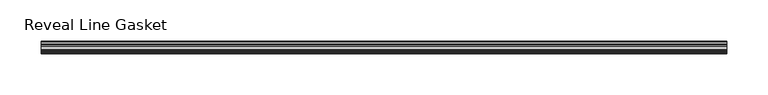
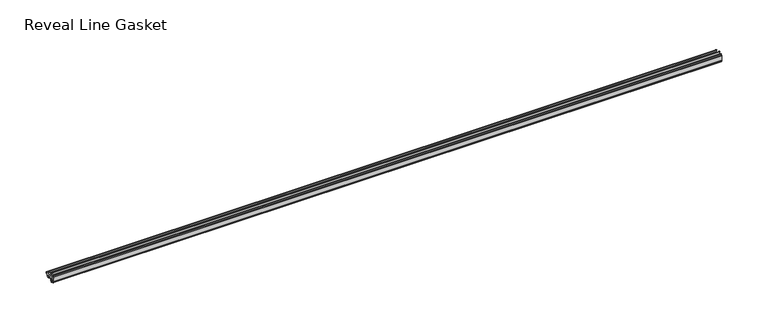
"""IFC4 building model written with IfcOpenShell, lengths in millimetres: proxy geometry, Accessories-Teknion-FHGR-AI_Healthcare-Reveal_Line_Gasket(Horizontal)-R2022 : Reveal Line Gasket."""

from ifc_helpers import new_model, si_unit, point, frame, frame_2d, origin, place, context, project, spatial, polyline, circle_curve, trimmed, segment, composite_curve, outline, extrude, source, transform, mapped, element, save


def reveal_line_gasket_19e44f22(model_context):
    return source(origin(), model_context, "Body", "SweptSolid", [
        extrude(outline(composite_curve([segment(polyline([(-7.6326998, 1603.2), (-7.4091917, 1604.1554927), (-6.8813059, 1605.0884684)]), True, "CONTINUOUS"), segment(trimmed(circle_curve(frame_2d((-6.5243141, 1604.8864793)), 0.4101739), [point((-6.8813059, 1605.0884684))], [point((-6.1246704, 1604.7941347))], False, "CARTESIAN"), True, "CONTINUOUS"), segment(polyline([(-6.1246704, 1604.7941347), (-6.3626997, 1603.0979086), (-6.3626997, 1601.0654527)]), True, "CONTINUOUS"), segment(trimmed(circle_curve(frame_2d((-5.6959605, 1601.4819258)), 0.786124), [point((-6.3626997, 1601.0654527))], [point((-5.0926996, 1600.977875))], True, "CARTESIAN"), True, "CONTINUOUS"), segment(polyline([(-5.0926996, 1600.977875), (-0.7492996, 1600.977875), (-3.7293824, 1606.1395295)]), True, "CONTINUOUS"), segment(trimmed(circle_curve(frame_2d((-3.3132479, 1606.2049761)), 0.4212495), [point((-3.7293824, 1606.1395295))], [point((-3.0485022, 1606.5326358))], False, "CARTESIAN"), True, "CONTINUOUS"), segment(polyline([(-3.0485022, 1606.5326358), (0.5742594, 1600.977875), (4.8262978, 1600.977875), (3.1660374, 1603.8535297)]), True, "CONTINUOUS"), segment(trimmed(circle_curve(frame_2d((3.5978728, 1603.9118855)), 0.4357605), [point((3.1660374, 1603.8535297))], [point((3.864328, 1604.2566881))], False, "CARTESIAN"), True, "CONTINUOUS"), segment(polyline([(3.864328, 1604.2566881), (6.1944059, 1600.977875), (7.6326998, 1600.977875), (7.6326998, 1599.422125), (6.1944059, 1599.422125), (3.864328, 1596.1433119)]), True, "CONTINUOUS"), segment(trimmed(circle_curve(frame_2d((3.5978728, 1596.4881145)), 0.4357605), [point((3.864328, 1596.1433119))], [point((3.1660374, 1596.5464703))], False, "CARTESIAN"), True, "CONTINUOUS"), segment(polyline([(3.1660374, 1596.5464703), (4.8262978, 1599.422125), (0.5742594, 1599.422125), (-3.0485022, 1593.8673642)]), True, "CONTINUOUS"), segment(trimmed(circle_curve(frame_2d((-3.3132479, 1594.1950239)), 0.4212495), [point((-3.0485022, 1593.8673642))], [point((-3.7293824, 1594.2604705))], False, "CARTESIAN"), True, "CONTINUOUS"), segment(polyline([(-3.7293824, 1594.2604705), (-0.7492996, 1599.422125), (-5.0926996, 1599.422125)]), True, "CONTINUOUS"), segment(trimmed(circle_curve(frame_2d((-5.6959605, 1598.9180742)), 0.786124), [point((-5.0926996, 1599.422125))], [point((-6.3626997, 1599.3345473))], True, "CARTESIAN"), True, "CONTINUOUS"), segment(polyline([(-6.3626997, 1599.3345473), (-6.3626997, 1597.3020914), (-6.1246704, 1595.6058653)]), True, "CONTINUOUS"), segment(trimmed(circle_curve(frame_2d((-6.5243141, 1595.5135207)), 0.4101739), [point((-6.1246704, 1595.6058653))], [point((-6.8813059, 1595.3115316))], False, "CARTESIAN"), True, "CONTINUOUS"), segment(polyline([(-6.8813059, 1595.3115316), (-7.4091917, 1596.2445073), (-7.6326998, 1597.2), (-7.6326998, 1603.2)]), True, "CONTINUOUS")], self_intersect=False)), frame((-417.2204, 0.0, 0.0), z_axis=(1.0, 0.0, 0.0), x_axis=(0.0, 1.0, 0.0)), (0.0, 0.0, 1.0), 834.4408),
    ])


if __name__ == "__main__":
    model = new_model("IFC4")
    model_context = context("Model", 3, world=origin())
    ifc_project = project(units=[si_unit("LENGTHUNIT", "METRE", prefix="MILLI")], contexts=[model_context])
    site = spatial("IfcSite", under=ifc_project)
    building = spatial("IfcBuilding", under=site)
    placement = place(None, origin())
    reveal_line_gasket_shape = reveal_line_gasket_19e44f22(model_context)
    element("IfcBuildingElementProxy", 1, Name="Accessories-Teknion-FHGR-AI_Healthcare-Reveal_Line_Gasket(Horizontal)-R2022 : Reveal Line Gasket", ObjectType="Accessories-Teknion-FHGR-AI_Healthcare-Reveal_Line_Gasket(Horizontal)-R2022 : Reveal Line Gasket", at=placement, inside=building, context=model_context, shape_type="MappedRepresentation", body=[
        mapped(reveal_line_gasket_shape, transform((0.0, 0.0, 0.0), x_axis=(1.0, 0.0, 0.0), y_axis=(0.0, 1.0, 0.0), z_axis=(0.0, 0.0, 1.0))),
    ])
    save(model, "model.ifc")
